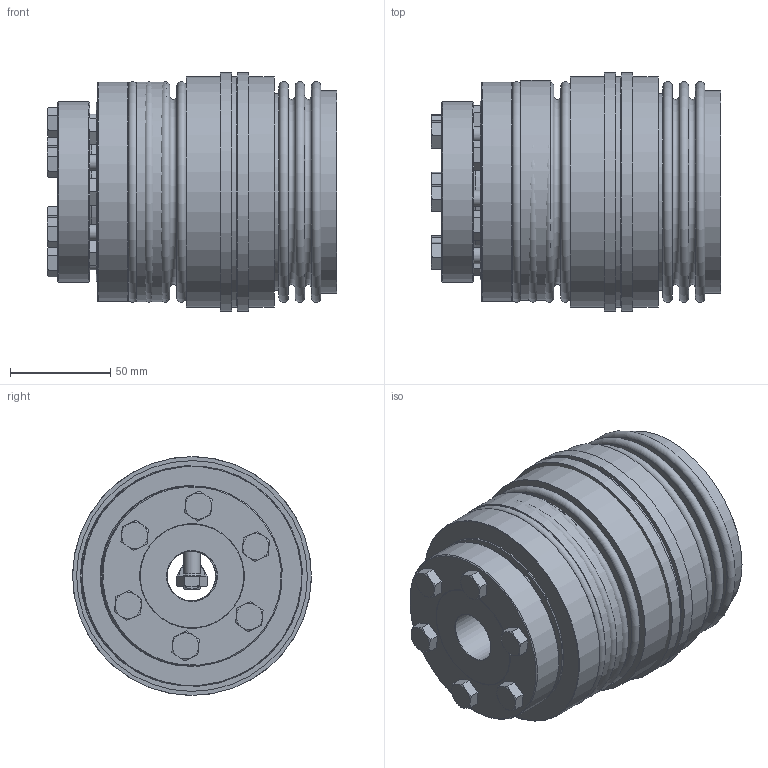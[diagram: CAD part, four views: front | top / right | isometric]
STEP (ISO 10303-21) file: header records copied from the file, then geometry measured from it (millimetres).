
FILE_DESCRIPTION( ( 'Unknown' ), '1' );
FILE_NAME( 'C:/Dokumente und Einstellungen/SKarpstein/Desktop/Korrigierte 3D Modelle/KBK-B-AI/KBK-BAI-300-133.stp', 'Unknown', ( 'Unknown' ), ( 'Unknown' ), 'XStep 1.0', 'Unknown', ' ' );
FILE_SCHEMA( ( 'automotive_design' ) );
Length unit declared in the file: millimetre
Products named in the file (12): Assem1; Assem2; Hex Screw GradeC_DIN_ISO 4018 - M8 x 30-NN; DR300_Standard; BA300_Standard; Stellring 300_0; Druckring 300_0; Kupplung L-I-300 Grundkörper_0; Konusbuchse 300_0; din_en_24017_m8x30_0; Flansch BK300; BK300_Standard_0
Bounding box: 144.37 x 119 x 119 mm (x, y, z)
Volume: 1523731.5 mm3; surface area: 515591.2 mm2
Topology: 38 solids, 38 shells, 741 faces, 1565 edges, 993 vertices
Faces by surface type: plane 325, cone 216, cylinder 161, torus 39
Full cylindrical faces by diameter (mm): 3.242 x6, 5.2 x6, 6.647 x18, 6.8 x18, 8 x20, 8.5 x12, 9 x18, 11.63 x7, 25 x7, 52 x4, 55 x4, 57.995 x3, 76 x6, 83.5 x2, 84 x2, 88 x2, 90 x5, 98 x2, 98.5 x2, 99.8 x4, 101 x4, 109.5 x3, 115 x4, 119 x2
Entity records: 5695 total; most frequent: CARTESIAN_POINT 1241, DIRECTION 938, ORIENTED_EDGE 604, AXIS2_PLACEMENT_3D 445, EDGE_LOOP 410, EDGE_CURVE 302, FACE_OUTER_BOUND 286, VERTEX_POINT 254
